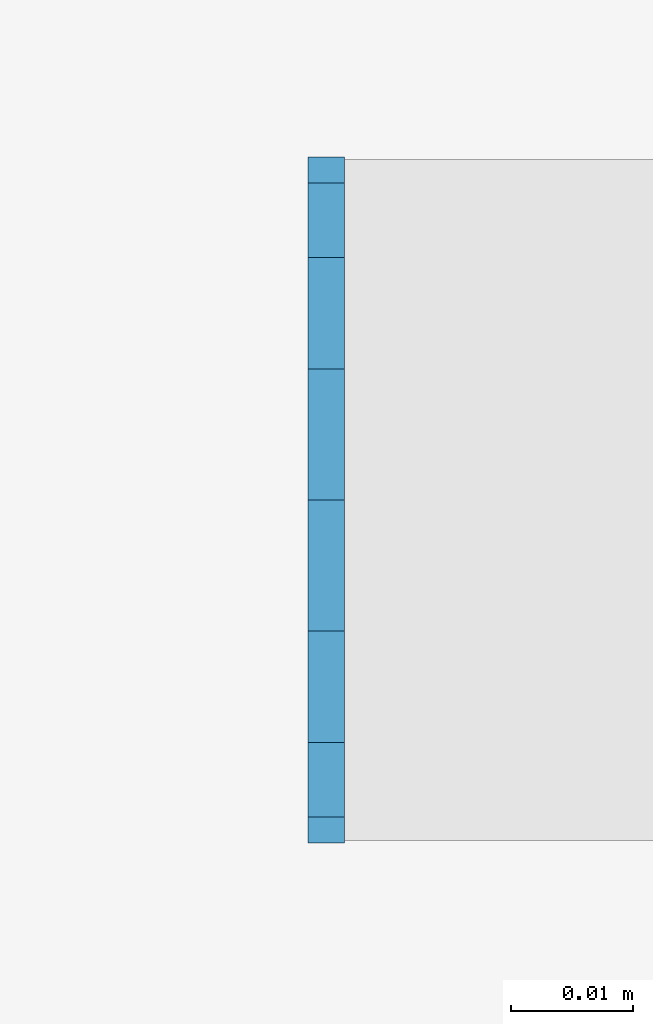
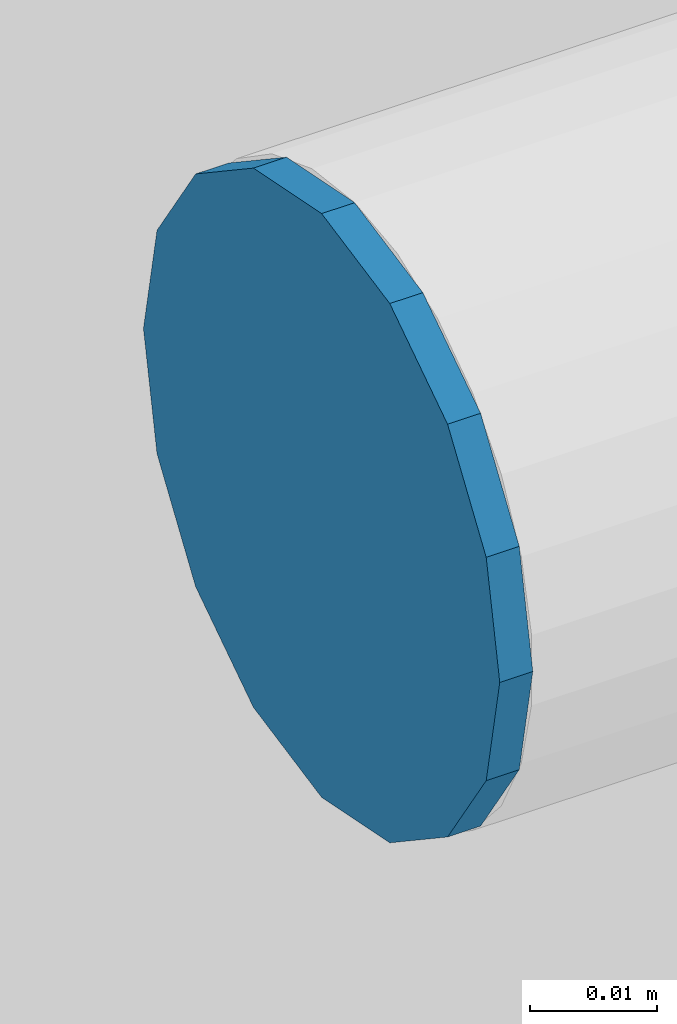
# One storey, part 37 of 230: 1 beam.
"""IFC4X3_ADD2 building model written with IfcOpenShell, lengths in millimetres."""

from ifc_helpers import new_model, si_unit, direction, frame, origin_with_axes, place, context, subcontext, project, spatial, indexed_curve, outline, extrude, material, element, save


model = new_model("IFC4X3_ADD2")

# Units and contexts
model_context = context("Model", 3, precision=1e-05, world=origin_with_axes(), true_north=direction((0.0, 1.0)))
body_context = subcontext(model_context, "Body", "Model", "MODEL_VIEW")
ifc_project = project(units=[si_unit("LENGTHUNIT", "METRE", prefix="MILLI"), si_unit("AREAUNIT", "SQUARE_METRE"), si_unit("VOLUMEUNIT", "CUBIC_METRE"), si_unit("PLANEANGLEUNIT", "RADIAN"), si_unit("TIMEUNIT", "SECOND"), si_unit("MASSUNIT", "GRAM")], contexts=[model_context])

# Site, building, storey
site_placement = place(None, origin_with_axes())
site = spatial("IfcSite", under=ifc_project, at=site_placement, Name="Site", CompositionType="ELEMENT")
building_placement = place(site_placement, origin_with_axes())
building = spatial("IfcBuilding", under=site, at=building_placement, Name="IFC Building Story")
storey_placement = place(building_placement, origin_with_axes())
storey = spatial("IfcBuildingStorey", under=building, at=storey_placement, Name="ETAGE 00 (0)", Elevation=0.0)

# Beam
ifc_material = material(Name="STEEL/Accessory 22919")
beam_placement = place(storey_placement, frame((33209.1882547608, 274.999963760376, 1190.0), z_axis=(-1.0, 0.0, 0.0), x_axis=(0.0, 0.1950903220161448, 0.9807852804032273)))
element("IfcBeam", 1, at=beam_placement, inside=storey, material=ifc_material, Name="TA4", ObjectType="D56", context=body_context, shape_type="SweptSolid", body=[
    extrude(outline(indexed_curve([(23.28114914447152, 15.55596652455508), (27.46198785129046, 5.462529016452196), (27.46198785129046, -5.462529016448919), (23.28114914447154, -15.55596652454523), (15.55596652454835, -23.28114914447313), (5.462529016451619, -27.46198785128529), (-5.462529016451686, -27.46198785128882), (-15.55596652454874, -23.28114914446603), (-23.2811491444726, -15.55596652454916), (-27.46198785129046, -5.462529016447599), (-27.46198785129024, 5.462529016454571), (-23.28114914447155, 15.55596652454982), (-15.55596652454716, 23.28114914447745), (-5.462529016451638, 27.46198785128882), (5.462529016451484, 27.46198785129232), (15.55596652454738, 23.28114914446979), (23.28114914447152, 15.55596652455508)])), origin_with_axes(), (0.0, 0.0, 1.0), 3.0),
])

save(model, "model.ifc")
